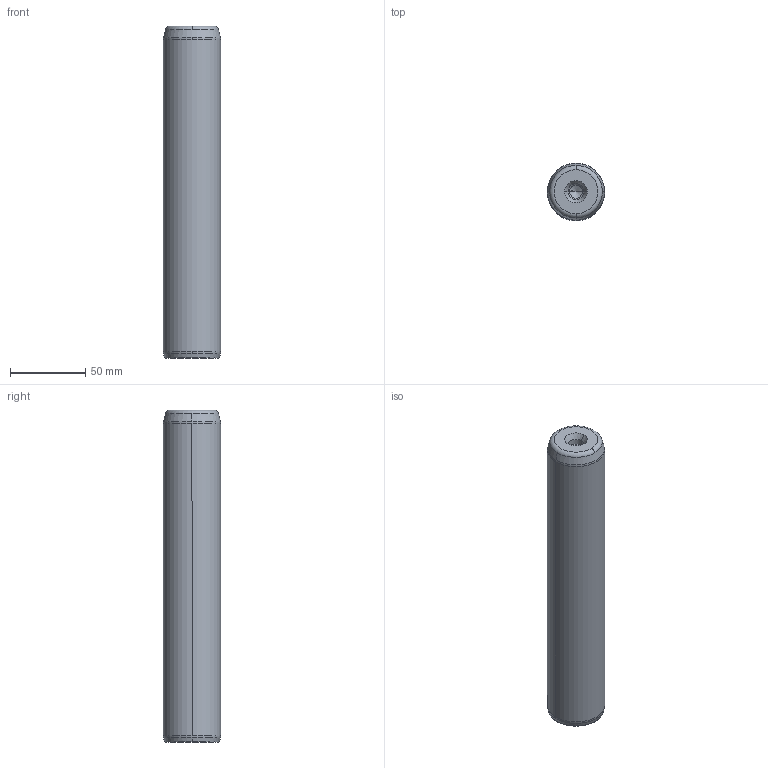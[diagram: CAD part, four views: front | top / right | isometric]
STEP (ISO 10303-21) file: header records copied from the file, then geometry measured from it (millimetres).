
FILE_DESCRIPTION((''),'2;1');
FILE_NAME('P10_038_220.stp','2008-12-23T15:15:04',(''),(''),'Mechanical Desktop 2009','Mechanical Desktop 2009',', , ');
FILE_SCHEMA(('CONFIG_CONTROL_DESIGN'));
Length unit declared in the file: millimetre
Products named in the file (5): Product; ProductAA; blmdl1; ProductA; blmdl1A
Assembly tree (2 placements, depth 3):
  Product
    ProductAA
      blmdl1
  ProductA
  blmdl1A
Bounding box: 38 x 38 x 220 mm (x, y, z)
Volume: 246072.1 mm3; surface area: 28884 mm2
Topology: 1 solids, 1 shells, 26 faces, 66 edges, 41 vertices
Faces by surface type: cone 10, torus 8, cylinder 6, plane 2
Entity records: 1012 total; most frequent: DIRECTION 170, CARTESIAN_POINT 134, ORIENTED_EDGE 128, AXIS2_PLACEMENT_3D 77, EDGE_CURVE 64, CIRCLE 48, VERTEX_POINT 41, EDGE_LOOP 27
